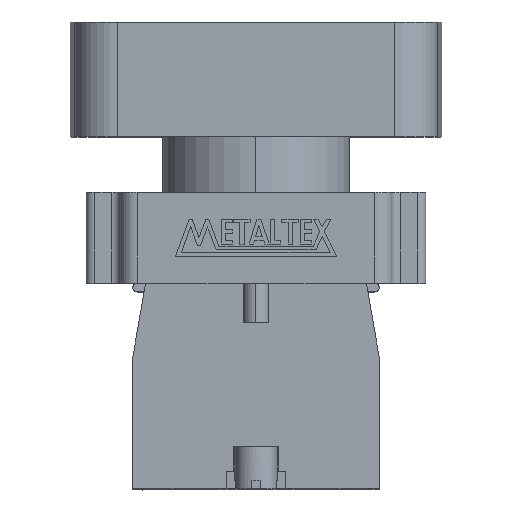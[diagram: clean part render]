
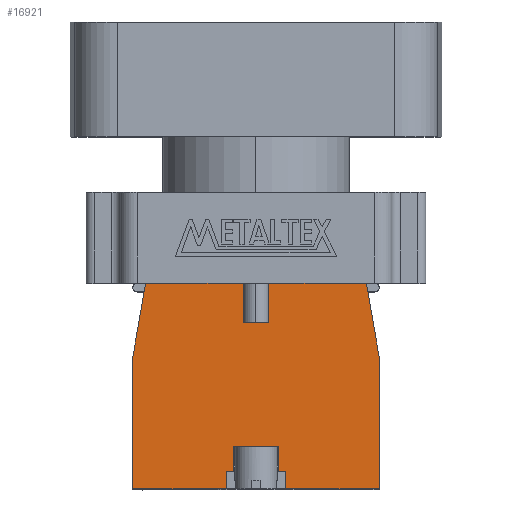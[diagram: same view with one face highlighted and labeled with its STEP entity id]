
A CAD part, top view. The second image highlights one B-rep face of the part: STEP entity #16921.
In plain terms, the highlighted planar face has unit normal (0, 0, 1).
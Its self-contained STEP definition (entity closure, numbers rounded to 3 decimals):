
#7 = VERTEX_POINT ( 'NONE', #5151 ) ;
#9 = VERTEX_POINT ( 'NONE', #5153 ) ;
#19 = VERTEX_POINT ( 'NONE', #5163 ) ;
#20 = VERTEX_POINT ( 'NONE', #5164 ) ;
#1670 = EDGE_LOOP ( 'NONE', ( #2237, #2239, #2236, #2238, #2240, #2241, #2243, #2242, #2244, #2245, #2247, #2246, #2248, #2250, #2249, #2251, #2252, #2254 ) ) ;
#2236 = ORIENTED_EDGE ( 'NONE', *, *, #2514, .T. ) ;
#2237 = ORIENTED_EDGE ( 'NONE', *, *, #2515, .T. ) ;
#2238 = ORIENTED_EDGE ( 'NONE', *, *, #17287, .T. ) ;
#2239 = ORIENTED_EDGE ( 'NONE', *, *, #17236, .T. ) ;
#2240 = ORIENTED_EDGE ( 'NONE', *, *, #2472, .T. ) ;
#2241 = ORIENTED_EDGE ( 'NONE', *, *, #2516, .T. ) ;
#2242 = ORIENTED_EDGE ( 'NONE', *, *, #2518, .T. ) ;
#2243 = ORIENTED_EDGE ( 'NONE', *, *, #2517, .T. ) ;
#2244 = ORIENTED_EDGE ( 'NONE', *, *, #17274, .F. ) ;
#2245 = ORIENTED_EDGE ( 'NONE', *, *, #2519, .F. ) ;
#2246 = ORIENTED_EDGE ( 'NONE', *, *, #2521, .F. ) ;
#2247 = ORIENTED_EDGE ( 'NONE', *, *, #2520, .T. ) ;
#2248 = ORIENTED_EDGE ( 'NONE', *, *, #2469, .T. ) ;
#2249 = ORIENTED_EDGE ( 'NONE', *, *, #17229, .T. ) ;
#2250 = ORIENTED_EDGE ( 'NONE', *, *, #2510, .T. ) ;
#2251 = ORIENTED_EDGE ( 'NONE', *, *, #17240, .T. ) ;
#2252 = ORIENTED_EDGE ( 'NONE', *, *, #2522, .F. ) ;
#2254 = ORIENTED_EDGE ( 'NONE', *, *, #17280, .T. ) ;
#2469 = EDGE_CURVE ( 'NONE', #20326, #20325, #5444, .T. ) ;
#2472 = EDGE_CURVE ( 'NONE', #20, #20332, #5453, .T. ) ;
#2510 = EDGE_CURVE ( 'NONE', #20325, #20419, #5567, .T. ) ;
#2514 = EDGE_CURVE ( 'NONE', #20416, #19, #5579, .T. ) ;
#2515 = EDGE_CURVE ( 'NONE', #7, #20425, #5582, .T. ) ;
#2516 = EDGE_CURVE ( 'NONE', #20332, #20306, #5585, .T. ) ;
#2517 = EDGE_CURVE ( 'NONE', #20306, #20308, #5588, .T. ) ;
#2518 = EDGE_CURVE ( 'NONE', #20308, #20441, #5591, .T. ) ;
#2519 = EDGE_CURVE ( 'NONE', #20293, #20442, #5594, .T. ) ;
#2520 = EDGE_CURVE ( 'NONE', #20293, #20292, #5597, .T. ) ;
#2521 = EDGE_CURVE ( 'NONE', #20326, #20292, #5600, .T. ) ;
#2522 = EDGE_CURVE ( 'NONE', #9, #20423, #5603, .T. ) ;
#5151 = CARTESIAN_POINT ( 'NONE',  ( -1.5, 19.6, 7.45 ) ) ;
#5153 = CARTESIAN_POINT ( 'NONE',  ( 1.5, 19.6, 7.45 ) ) ;
#5163 = CARTESIAN_POINT ( 'NONE',  ( -14.5, 15.5, 7.45 ) ) ;
#5164 = CARTESIAN_POINT ( 'NONE',  ( -14.5, 0., 7.45 ) ) ;
#5444 = LINE ( 'NONE', #5445, #19208 ) ;
#5445 = CARTESIAN_POINT ( 'NONE',  ( -14.5, 0., 7.45 ) ) ;
#5446 = DIRECTION ( 'NONE',  ( 1., 0., 0. ) ) ;
#5453 = LINE ( 'NONE', #5454, #19144 ) ;
#5454 = CARTESIAN_POINT ( 'NONE',  ( -14.5, 0., 7.45 ) ) ;
#5455 = DIRECTION ( 'NONE',  ( 1., 0., 0. ) ) ;
#5567 = LINE ( 'NONE', #5568, #19298 ) ;
#5568 = CARTESIAN_POINT ( 'NONE',  ( 14.5, 0., 7.45 ) ) ;
#5569 = DIRECTION ( 'NONE',  ( 0., 1., 0. ) ) ;
#5579 = LINE ( 'NONE', #5580, #19302 ) ;
#5580 = CARTESIAN_POINT ( 'NONE',  ( -13., 24.2, 7.45 ) ) ;
#5581 = DIRECTION ( 'NONE',  ( -0.17, -0.985, 0. ) ) ;
#5582 = LINE ( 'NONE', #5583, #19303 ) ;
#5583 = CARTESIAN_POINT ( 'NONE',  ( -1.5, 19.6, 7.45 ) ) ;
#5584 = DIRECTION ( 'NONE',  ( 0., 1., 0. ) ) ;
#5585 = LINE ( 'NONE', #5586, #19301 ) ;
#5586 = CARTESIAN_POINT ( 'NONE',  ( -3.5, 0., 7.45 ) ) ;
#5587 = DIRECTION ( 'NONE',  ( 0., 1., 0. ) ) ;
#5588 = LINE ( 'NONE', #5589, #19314 ) ;
#5589 = CARTESIAN_POINT ( 'NONE',  ( 0., 2., 7.45 ) ) ;
#5590 = DIRECTION ( 'NONE',  ( 1., 0., 0. ) ) ;
#5591 = LINE ( 'NONE', #5592, #19281 ) ;
#5592 = CARTESIAN_POINT ( 'NONE',  ( -2.6, 0., 7.45 ) ) ;
#5593 = DIRECTION ( 'NONE',  ( 0., 1., 0. ) ) ;
#5594 = LINE ( 'NONE', #5595, #19326 ) ;
#5595 = CARTESIAN_POINT ( 'NONE',  ( 2.6, 0., 7.45 ) ) ;
#5596 = DIRECTION ( 'NONE',  ( 0., 1., 0. ) ) ;
#5597 = LINE ( 'NONE', #5598, #19307 ) ;
#5598 = CARTESIAN_POINT ( 'NONE',  ( 0., 2., 7.45 ) ) ;
#5599 = DIRECTION ( 'NONE',  ( 1., 0., 0. ) ) ;
#5600 = LINE ( 'NONE', #5601, #19325 ) ;
#5601 = CARTESIAN_POINT ( 'NONE',  ( 3.5, 0., 7.45 ) ) ;
#5602 = DIRECTION ( 'NONE',  ( 0., 1., 0. ) ) ;
#5603 = LINE ( 'NONE', #5604, #19317 ) ;
#5604 = CARTESIAN_POINT ( 'NONE',  ( 1.5, 19.6, 7.45 ) ) ;
#5605 = DIRECTION ( 'NONE',  ( 0., 1., 0. ) ) ;
#12813 = PLANE ( 'NONE',  #14641 ) ;
#12814 = CARTESIAN_POINT ( 'NONE',  ( 0., 0., 7.45 ) ) ;
#12815 = DIRECTION ( 'NONE',  ( 0., 0., 1. ) ) ;
#12816 = DIRECTION ( 'NONE',  ( 1., 0., 0. ) ) ;
#13895 = VECTOR ( 'NONE', #17614, 1000. ) ;
#13917 = VECTOR ( 'NONE', #17593, 1000. ) ;
#13929 = VECTOR ( 'NONE', #17575, 1000. ) ;
#13981 = VECTOR ( 'NONE', #17473, 1000. ) ;
#13985 = VECTOR ( 'NONE', #17461, 1000. ) ;
#13999 = VECTOR ( 'NONE', #17440, 1000. ) ;
#14641 = AXIS2_PLACEMENT_3D ( 'NONE', #12814, #12815, #12816 ) ;
#14644 = FACE_OUTER_BOUND ( 'NONE', #1670, .T. ) ;
#16921 = ADVANCED_FACE ( 'NONE', ( #14644 ), #12813, .T. ) ;
#17229 = EDGE_CURVE ( 'NONE', #20419, #20420, #17438, .T. ) ;
#17236 = EDGE_CURVE ( 'NONE', #20425, #20416, #17459, .T. ) ;
#17240 = EDGE_CURVE ( 'NONE', #20420, #20423, #17471, .T. ) ;
#17274 = EDGE_CURVE ( 'NONE', #20442, #20441, #17573, .T. ) ;
#17280 = EDGE_CURVE ( 'NONE', #9, #7, #17591, .T. ) ;
#17287 = EDGE_CURVE ( 'NONE', #19, #20, #17612, .T. ) ;
#17438 = LINE ( 'NONE', #17439, #13999 ) ;
#17439 = CARTESIAN_POINT ( 'NONE',  ( 14.5, 15.5, 7.45 ) ) ;
#17440 = DIRECTION ( 'NONE',  ( -0.17, 0.985, 0. ) ) ;
#17459 = LINE ( 'NONE', #17460, #13985 ) ;
#17460 = CARTESIAN_POINT ( 'NONE',  ( 13., 24.2, 7.45 ) ) ;
#17461 = DIRECTION ( 'NONE',  ( -1., 0., 0. ) ) ;
#17471 = LINE ( 'NONE', #17472, #13981 ) ;
#17472 = CARTESIAN_POINT ( 'NONE',  ( 13., 24.2, 7.45 ) ) ;
#17473 = DIRECTION ( 'NONE',  ( -1., 0., 0. ) ) ;
#17573 = LINE ( 'NONE', #17574, #13929 ) ;
#17574 = CARTESIAN_POINT ( 'NONE',  ( 0., 5., 7.45 ) ) ;
#17575 = DIRECTION ( 'NONE',  ( -1., 0., 0. ) ) ;
#17591 = LINE ( 'NONE', #17592, #13917 ) ;
#17592 = CARTESIAN_POINT ( 'NONE',  ( 0., 19.6, 7.45 ) ) ;
#17593 = DIRECTION ( 'NONE',  ( -1., 0., 0. ) ) ;
#17612 = LINE ( 'NONE', #17613, #13895 ) ;
#17613 = CARTESIAN_POINT ( 'NONE',  ( -14.5, 15.5, 7.45 ) ) ;
#17614 = DIRECTION ( 'NONE',  ( 0., -1., 0. ) ) ;
#18603 = CARTESIAN_POINT ( 'NONE',  ( 3.5, 2., 7.45 ) ) ;
#18604 = CARTESIAN_POINT ( 'NONE',  ( 2.6, 2., 7.45 ) ) ;
#18617 = CARTESIAN_POINT ( 'NONE',  ( -3.5, 2., 7.45 ) ) ;
#18619 = CARTESIAN_POINT ( 'NONE',  ( -2.6, 2., 7.45 ) ) ;
#18636 = CARTESIAN_POINT ( 'NONE',  ( 14.5, 0., 7.45 ) ) ;
#18637 = CARTESIAN_POINT ( 'NONE',  ( 3.5, 0., 7.45 ) ) ;
#18643 = CARTESIAN_POINT ( 'NONE',  ( -3.5, 0., 7.45 ) ) ;
#18727 = CARTESIAN_POINT ( 'NONE',  ( -13., 24.2, 7.45 ) ) ;
#18730 = CARTESIAN_POINT ( 'NONE',  ( 14.5, 15.5, 7.45 ) ) ;
#18731 = CARTESIAN_POINT ( 'NONE',  ( 13., 24.2, 7.45 ) ) ;
#18734 = CARTESIAN_POINT ( 'NONE',  ( 1.5, 24.2, 7.45 ) ) ;
#18736 = CARTESIAN_POINT ( 'NONE',  ( -1.5, 24.2, 7.45 ) ) ;
#18752 = CARTESIAN_POINT ( 'NONE',  ( -2.6, 5., 7.45 ) ) ;
#18753 = CARTESIAN_POINT ( 'NONE',  ( 2.6, 5., 7.45 ) ) ;
#19144 = VECTOR ( 'NONE', #5455, 1000. ) ;
#19208 = VECTOR ( 'NONE', #5446, 1000. ) ;
#19281 = VECTOR ( 'NONE', #5593, 1000. ) ;
#19298 = VECTOR ( 'NONE', #5569, 1000. ) ;
#19301 = VECTOR ( 'NONE', #5587, 1000. ) ;
#19302 = VECTOR ( 'NONE', #5581, 1000. ) ;
#19303 = VECTOR ( 'NONE', #5584, 1000. ) ;
#19307 = VECTOR ( 'NONE', #5599, 1000. ) ;
#19314 = VECTOR ( 'NONE', #5590, 1000. ) ;
#19317 = VECTOR ( 'NONE', #5605, 1000. ) ;
#19325 = VECTOR ( 'NONE', #5602, 1000. ) ;
#19326 = VECTOR ( 'NONE', #5596, 1000. ) ;
#20292 = VERTEX_POINT ( 'NONE', #18603 ) ;
#20293 = VERTEX_POINT ( 'NONE', #18604 ) ;
#20306 = VERTEX_POINT ( 'NONE', #18617 ) ;
#20308 = VERTEX_POINT ( 'NONE', #18619 ) ;
#20325 = VERTEX_POINT ( 'NONE', #18636 ) ;
#20326 = VERTEX_POINT ( 'NONE', #18637 ) ;
#20332 = VERTEX_POINT ( 'NONE', #18643 ) ;
#20416 = VERTEX_POINT ( 'NONE', #18727 ) ;
#20419 = VERTEX_POINT ( 'NONE', #18730 ) ;
#20420 = VERTEX_POINT ( 'NONE', #18731 ) ;
#20423 = VERTEX_POINT ( 'NONE', #18734 ) ;
#20425 = VERTEX_POINT ( 'NONE', #18736 ) ;
#20441 = VERTEX_POINT ( 'NONE', #18752 ) ;
#20442 = VERTEX_POINT ( 'NONE', #18753 ) ;
